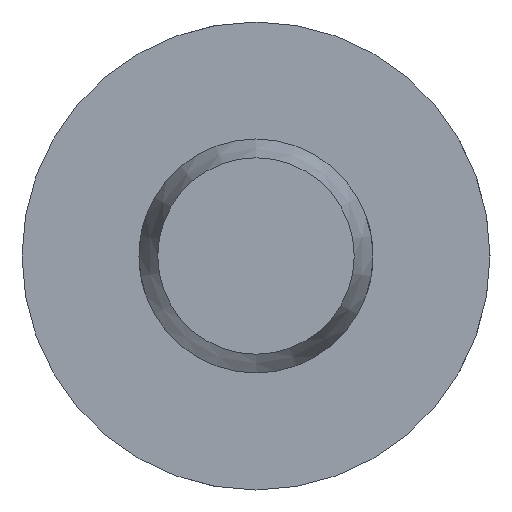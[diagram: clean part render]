
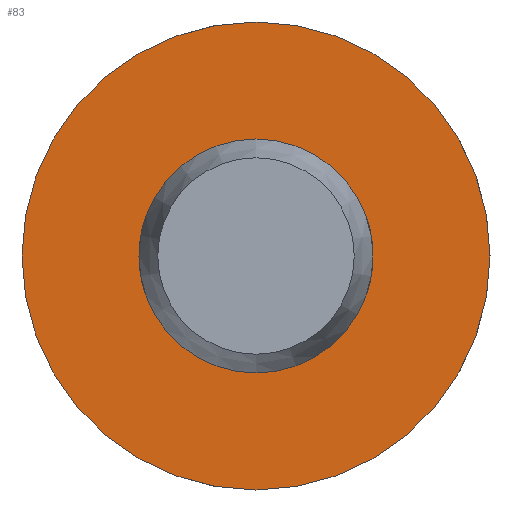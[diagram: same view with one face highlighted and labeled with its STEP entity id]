
A CAD part, left-side view. The second image highlights one B-rep face of the part: STEP entity #83.
In plain terms, the highlighted planar face has unit normal (-1, 0, 0).
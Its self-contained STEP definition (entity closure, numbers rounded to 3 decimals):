
#83 = ADVANCED_FACE( '', ( #129, #130 ), #131, .F. );
#129 = FACE_OUTER_BOUND( '', #208, .T. );
#130 = FACE_BOUND( '', #209, .T. );
#131 = PLANE( '', #210 );
#208 = EDGE_LOOP( '', ( #325 ) );
#209 = EDGE_LOOP( '', ( #326 ) );
#210 = AXIS2_PLACEMENT_3D( '', #327, #328, #329 );
#325 = ORIENTED_EDGE( '', *, *, #493, .F. );
#326 = ORIENTED_EDGE( '', *, *, #483, .T. );
#327 = CARTESIAN_POINT( '', ( 36., 2.5, 0. ) );
#328 = DIRECTION( '', ( 1., 0., 0. ) );
#329 = DIRECTION( '', ( 0., 0., -1. ) );
#483 = EDGE_CURVE( '', #554, #554, #555, .T. );
#493 = EDGE_CURVE( '', #572, #572, #573, .T. );
#554 = VERTEX_POINT( '', #741 );
#555 = CIRCLE( '', #742, 2.5 );
#572 = VERTEX_POINT( '', #842 );
#573 = CIRCLE( '', #843, 5. );
#741 = CARTESIAN_POINT( '', ( 36., 0., -2.5 ) );
#742 = AXIS2_PLACEMENT_3D( '', #906, #907, #908 );
#842 = CARTESIAN_POINT( '', ( 36., 0., -5. ) );
#843 = AXIS2_PLACEMENT_3D( '', #927, #928, #929 );
#906 = CARTESIAN_POINT( '', ( 36., 0., 0. ) );
#907 = DIRECTION( '', ( 1., 0., 0. ) );
#908 = DIRECTION( '', ( 0., 0., -1. ) );
#927 = CARTESIAN_POINT( '', ( 36., 0., 0. ) );
#928 = DIRECTION( '', ( 1., 0., 0. ) );
#929 = DIRECTION( '', ( 0., 0., -1. ) );
